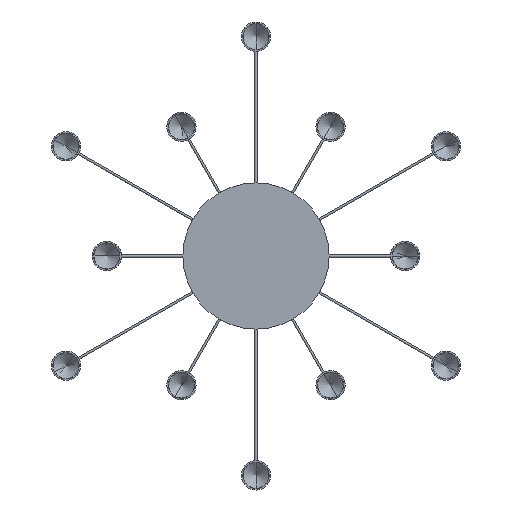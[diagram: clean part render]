
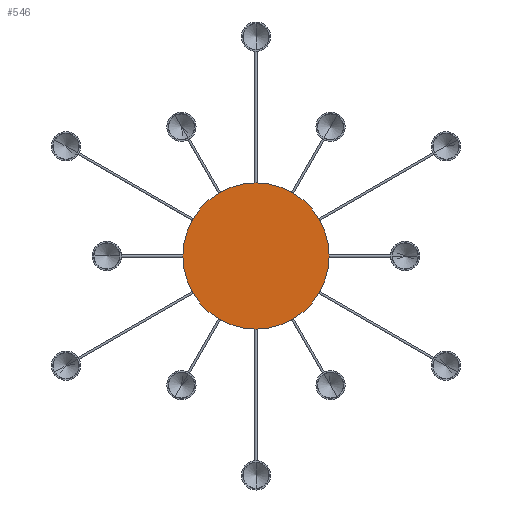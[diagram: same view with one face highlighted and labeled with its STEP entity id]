
A CAD part, front view. The second image highlights one B-rep face of the part: STEP entity #546.
In plain terms, the highlighted planar face has unit normal (0, -1, 0).
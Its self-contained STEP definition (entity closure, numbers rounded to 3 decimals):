
#53 = ORIENTED_EDGE ( 'NONE', *, *, #1880, .F. ) ;
#418 = ORIENTED_EDGE ( 'NONE', *, *, #1238, .F. ) ;
#546 = ADVANCED_FACE ( 'NONE', ( #2704 ), #2598, .F. ) ;
#1063 = DIRECTION ( 'NONE',  ( 0., 1., 0. ) ) ;
#1238 = EDGE_CURVE ( 'NONE', #1814, #5616, #3809, .T. ) ;
#1324 = DIRECTION ( 'NONE',  ( 0., 1., 0. ) ) ;
#1338 = EDGE_LOOP ( 'NONE', ( #53, #418 ) ) ;
#1814 = VERTEX_POINT ( 'NONE', #4300 ) ;
#1880 = EDGE_CURVE ( 'NONE', #5616, #1814, #5615, .T. ) ;
#1887 = AXIS2_PLACEMENT_3D ( 'NONE', #3946, #1324, #2854 ) ;
#2558 = AXIS2_PLACEMENT_3D ( 'NONE', #3200, #3228, #5996 ) ;
#2598 = PLANE ( 'NONE',  #2558 ) ;
#2704 = FACE_OUTER_BOUND ( 'NONE', #1338, .T. ) ;
#2827 = CARTESIAN_POINT ( 'NONE',  ( 0., 0., 0. ) ) ;
#2854 = DIRECTION ( 'NONE',  ( 0., 0., 1. ) ) ;
#3122 = AXIS2_PLACEMENT_3D ( 'NONE', #2827, #1063, #3360 ) ;
#3200 = CARTESIAN_POINT ( 'NONE',  ( 0., 0., 0. ) ) ;
#3228 = DIRECTION ( 'NONE',  ( 0., 1., 0. ) ) ;
#3360 = DIRECTION ( 'NONE',  ( 0., 0., 1. ) ) ;
#3778 = CARTESIAN_POINT ( 'NONE',  ( 0., 0., -125. ) ) ;
#3809 = CIRCLE ( 'NONE', #1887, 125. ) ;
#3946 = CARTESIAN_POINT ( 'NONE',  ( 0., 0., 0. ) ) ;
#4300 = CARTESIAN_POINT ( 'NONE',  ( 0., 0., 125. ) ) ;
#5615 = CIRCLE ( 'NONE', #3122, 125. ) ;
#5616 = VERTEX_POINT ( 'NONE', #3778 ) ;
#5996 = DIRECTION ( 'NONE',  ( 0., 0., 1. ) ) ;
